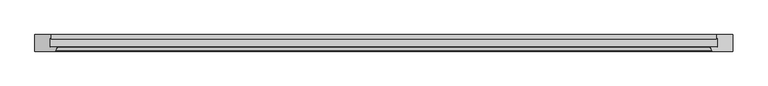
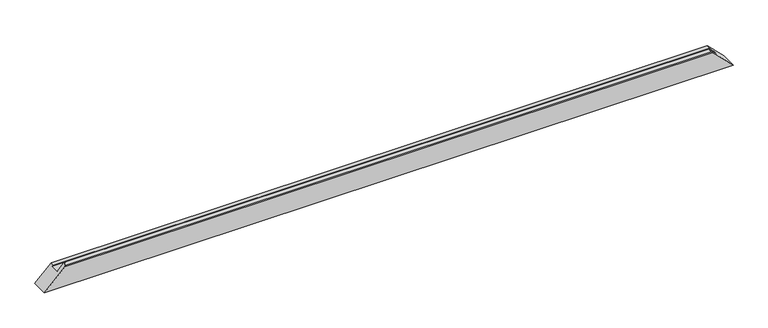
"""IFC4 building model written with IfcOpenShell, lengths in millimetres: proxy geometry, Weiku - Montante - Caixilho 02.2.01.005 : Weiku - Montante - Caixilho 02.2.01.005."""

from ifc_helpers import new_model, si_unit, frame, origin, place, context, project, spatial, ellipse_curve, source, transform, mapped, element, save
from ifc_brep_helpers import plane_surface, cylinder_surface, advanced_brep


def generic_models_f8ce0716(model_context):
    return source(origin(), model_context, "Body", "AdvancedBrep", [
        advanced_brep(
        [(-1001.5, 12.5, 46.0), (-981.3909676, 12.5, 66.1090324), (981.3909676, 12.5, 66.1090324), (1001.5, 12.5, 46.0), (-1001.5, 37.8314286, 46.0), (1001.5, 37.8314286, 46.0), (-998.5, 37.027581, 49.0), (998.5, 37.027581, 49.0), (-998.5, 50.0, 49.0), (998.5, 50.0, 49.0), (1047.5, 50.0, 0.0), (-1047.5, 50.0, 0.0), (1047.5, 0.0, 0.0), (-1047.5, 0.0, 0.0), (985.9997332, 0.0, 61.5002668), (-985.9997332, 0.0, 61.5002668), (-980.618227, 11.4929448, 66.881773), (-983.1019557, 2.2235429, 64.3980443), (983.1019557, 2.2235429, 64.3980443), (980.618227, 11.4929448, 66.881773)],
        [
            (0, 1),
            (1, 2),
            (2, 3),
            (3, 0),
            (4, 0),
            (3, 5),
            (5, 4),
            (6, 4),
            (5, 7),
            (7, 6),
            (8, 6),
            (7, 9),
            (9, 8),
            (10, 11),
            (11, 8),
            (9, 10),
            (10, 12),
            (12, 13),
            (13, 11),
            (12, 14),
            (14, 15),
            (15, 13),
            (16, 17),
            (17, 18),
            (18, 19),
            (19, 16),
            (15, 17, ellipse_curve(frame((-985.9997332, 3.0, 61.5002668), z_axis=(-0.7071067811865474, 0.0, 0.7071067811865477), x_axis=(-0.7071067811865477, 0.0, -0.7071067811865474)), 4.2426407, 3.0)),
            (16, 1, ellipse_curve(frame((-981.3909676, 11.7, 66.1090324), z_axis=(-0.7071067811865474, 0.0, 0.7071067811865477), x_axis=(-0.7071067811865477, 0.0, -0.7071067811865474)), 1.1313708, 0.8)),
            (2, 19, ellipse_curve(frame((981.3909676, 11.7, 66.1090324), z_axis=(0.7071067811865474, 0.0, 0.7071067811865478), x_axis=(-0.7071067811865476, 0.0, 0.7071067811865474)), 1.1313708, 0.8)),
            (18, 14, ellipse_curve(frame((985.9997332, 3.0, 61.5002668), z_axis=(0.7071067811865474, 0.0, 0.7071067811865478), x_axis=(-0.7071067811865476, 0.0, 0.7071067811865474)), 4.2426407, 3.0)),
        ],
        [
            plane_surface(frame((-1047.5, 12.5, 66.1090324), z_axis=(0.0, 1.0, 0.0), x_axis=(1.0, 0.0, 0.0))),
            plane_surface(frame((-1047.5, 12.5, 46.0), z_axis=(0.0, 0.0, 1.0), x_axis=(1.0, 0.0, 0.0))),
            plane_surface(frame((-1047.5, 37.8314286, 46.0), z_axis=(0.0, -0.9659258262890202, -0.2588190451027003), x_axis=(1.0, 0.0, 0.0))),
            plane_surface(frame((-1047.5, 37.027581, 49.0), z_axis=(0.0, 0.0, 1.0), x_axis=(1.0, 0.0, 0.0))),
            plane_surface(frame((-1047.5, 50.0, 49.0), z_axis=(0.0, 1.0, 0.0), x_axis=(1.0, 0.0, 0.0))),
            plane_surface(frame((-1047.5, 50.0, 0.0), z_axis=(0.0, 0.0, -1.0), x_axis=(1.0, 0.0, 0.0))),
            plane_surface(frame((-1047.5, 0.0, 0.0), z_axis=(0.0, -1.0, 0.0), x_axis=(1.0, 0.0, 0.0))),
            plane_surface(frame((-1047.5, 2.2235429, 64.3980443), z_axis=(0.0, -0.2588190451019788, 0.9659258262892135), x_axis=(1.0, 0.0, 0.0))),
            plane_surface(frame((-1117.5, -15.0, -70.0), z_axis=(-0.7071067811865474, 0.0, 0.7071067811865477), x_axis=(0.0, 1.0, 0.0))),
            plane_surface(frame((977.5, -15.0, 70.0), z_axis=(0.7071067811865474, 0.0, 0.7071067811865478), x_axis=(0.0, 1.0, 0.0))),
            cylinder_surface(frame((-1047.5, 11.7, 66.1090324), z_axis=(-1.0, 0.0, 0.0), x_axis=(0.0, 1.0, 0.0)), 0.8),
            cylinder_surface(frame((-1047.5, 3.0, 61.5002668), z_axis=(-1.0, 0.0, 0.0), x_axis=(0.0, 1.0, 0.0)), 3.0),
        ],
        [
            (0, [[1, 2, 3, 4]]),
            (1, [[5, -4, 6, 7]]),
            (2, [[8, -7, 9, 10]]),
            (3, [[11, -10, 12, 13]]),
            (4, [[14, 15, -13, 16]]),
            (5, [[-14, 17, 18, 19]]),
            (6, [[-18, 20, 21, 22]]),
            (7, [[23, 24, 25, 26]]),
            (8, [[-1, -5, -8, -11, -15, -19, -22, 27, -23, 28]]),
            (9, [[-3, 29, -25, 30, -20, -17, -16, -12, -9, -6]]),
            (10, [[-28, -26, -29, -2]]),
            (11, [[-27, -21, -30, -24]]),
        ],
    ),
    ])


if __name__ == "__main__":
    model = new_model("IFC4")
    model_context = context("Model", 3, world=origin())
    ifc_project = project(units=[si_unit("LENGTHUNIT", "METRE", prefix="MILLI")], contexts=[model_context])
    site = spatial("IfcSite", under=ifc_project)
    building = spatial("IfcBuilding", under=site)
    placement = place(None, origin())
    generic_models_shape = generic_models_f8ce0716(model_context)
    element("IfcBuildingElementProxy", 1, Name="Weiku - Montante - Caixilho 02.2.01.005 : Weiku - Montante - Caixilho 02.2.01.005", ObjectType="Weiku - Montante - Caixilho 02.2.01.005 : Weiku - Montante - Caixilho 02.2.01.005", at=placement, inside=building, context=model_context, shape_type="MappedRepresentation", body=[
        mapped(generic_models_shape, transform((0.0, 0.0, 0.0), x_axis=(1.0, 0.0, 0.0), y_axis=(0.0, 1.0, 0.0), z_axis=(0.0, 0.0, 1.0))),
    ])
    save(model, "model.ifc")
